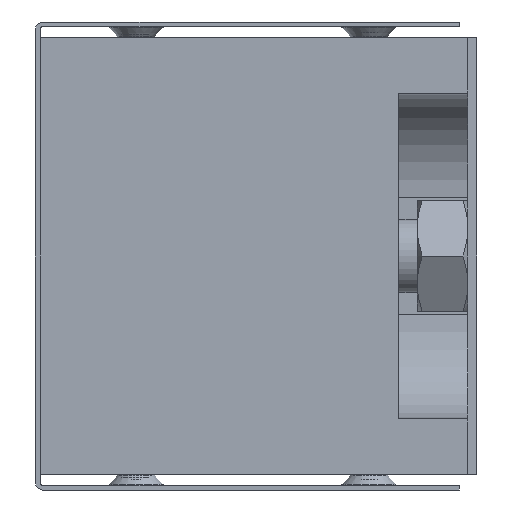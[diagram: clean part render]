
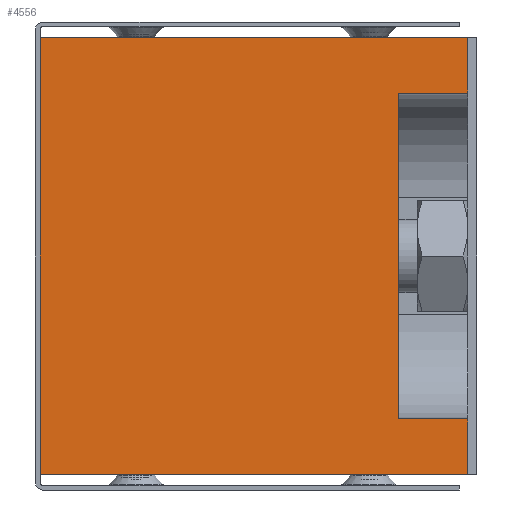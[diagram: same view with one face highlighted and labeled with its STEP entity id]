
A CAD part, left-side view. The second image highlights one B-rep face of the part: STEP entity #4556.
In plain terms, the highlighted planar face has unit normal (-1, 0, 0).
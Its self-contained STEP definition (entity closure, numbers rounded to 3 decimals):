
#102=PLANE('',#5065);
#388=LINE('',#7573,#715);
#392=LINE('',#7585,#719);
#395=LINE('',#7591,#722);
#396=LINE('',#7593,#723);
#397=LINE('',#7594,#724);
#398=LINE('',#7596,#725);
#399=LINE('',#7598,#726);
#400=LINE('',#7599,#727);
#715=VECTOR('',#6097,1000.);
#719=VECTOR('',#6105,1000.);
#722=VECTOR('',#6110,1000.);
#723=VECTOR('',#6111,1000.);
#724=VECTOR('',#6112,1000.);
#725=VECTOR('',#6113,1000.);
#726=VECTOR('',#6114,1000.);
#727=VECTOR('',#6115,1000.);
#1090=FACE_OUTER_BOUND('',#1357,.T.);
#1357=EDGE_LOOP('',(#3637,#3638,#3639,#3640,#3641,#3642,#3643,#3644));
#2154=VERTEX_POINT('',#7570);
#2155=VERTEX_POINT('',#7572);
#2160=VERTEX_POINT('',#7582);
#2161=VERTEX_POINT('',#7584);
#2163=VERTEX_POINT('',#7590);
#2164=VERTEX_POINT('',#7592);
#2165=VERTEX_POINT('',#7595);
#2166=VERTEX_POINT('',#7597);
#2713=EDGE_CURVE('',#2155,#2154,#388,.T.);
#2719=EDGE_CURVE('',#2161,#2160,#392,.T.);
#2722=EDGE_CURVE('',#2163,#2160,#395,.T.);
#2723=EDGE_CURVE('',#2164,#2163,#396,.T.);
#2724=EDGE_CURVE('',#2164,#2155,#397,.T.);
#2725=EDGE_CURVE('',#2165,#2154,#398,.T.);
#2726=EDGE_CURVE('',#2165,#2166,#399,.T.);
#2727=EDGE_CURVE('',#2166,#2161,#400,.T.);
#3637=ORIENTED_EDGE('',*,*,#2719,.T.);
#3638=ORIENTED_EDGE('',*,*,#2722,.F.);
#3639=ORIENTED_EDGE('',*,*,#2723,.F.);
#3640=ORIENTED_EDGE('',*,*,#2724,.T.);
#3641=ORIENTED_EDGE('',*,*,#2713,.T.);
#3642=ORIENTED_EDGE('',*,*,#2725,.F.);
#3643=ORIENTED_EDGE('',*,*,#2726,.T.);
#3644=ORIENTED_EDGE('',*,*,#2727,.T.);
#4556=ADVANCED_FACE('',(#1090),#102,.F.);
#5065=AXIS2_PLACEMENT_3D('',#7589,#6108,#6109);
#6097=DIRECTION('',(0.,0.,1.));
#6105=DIRECTION('',(0.,0.,1.));
#6108=DIRECTION('center_axis',(1.,0.,0.));
#6109=DIRECTION('ref_axis',(0.,0.,-1.));
#6110=DIRECTION('',(0.,-1.,0.));
#6111=DIRECTION('',(0.,0.,-1.));
#6112=DIRECTION('',(0.,-1.,0.));
#6113=DIRECTION('',(0.,-1.,0.));
#6114=DIRECTION('',(0.,0.,-1.));
#6115=DIRECTION('',(0.,-1.,0.));
#7570=CARTESIAN_POINT('',(-95.5,-36.,37.5));
#7572=CARTESIAN_POINT('',(-95.5,-36.,28.));
#7573=CARTESIAN_POINT('',(-95.5,-36.,-37.5));
#7582=CARTESIAN_POINT('',(-95.5,-36.,-28.));
#7584=CARTESIAN_POINT('',(-95.5,-36.,-37.5));
#7585=CARTESIAN_POINT('',(-95.5,-36.,-37.5));
#7589=CARTESIAN_POINT('Origin',(-95.5,37.5,37.5));
#7590=CARTESIAN_POINT('',(-95.5,-24.,-28.));
#7591=CARTESIAN_POINT('',(-95.5,-24.,-28.));
#7592=CARTESIAN_POINT('',(-95.5,-24.,28.));
#7593=CARTESIAN_POINT('',(-95.5,-24.,-28.));
#7594=CARTESIAN_POINT('',(-95.5,-24.,28.));
#7595=CARTESIAN_POINT('',(-95.5,37.5,37.5));
#7596=CARTESIAN_POINT('',(-95.5,37.5,37.5));
#7597=CARTESIAN_POINT('',(-95.5,37.5,-37.5));
#7598=CARTESIAN_POINT('',(-95.5,37.5,37.5));
#7599=CARTESIAN_POINT('',(-95.5,37.5,-37.5));
